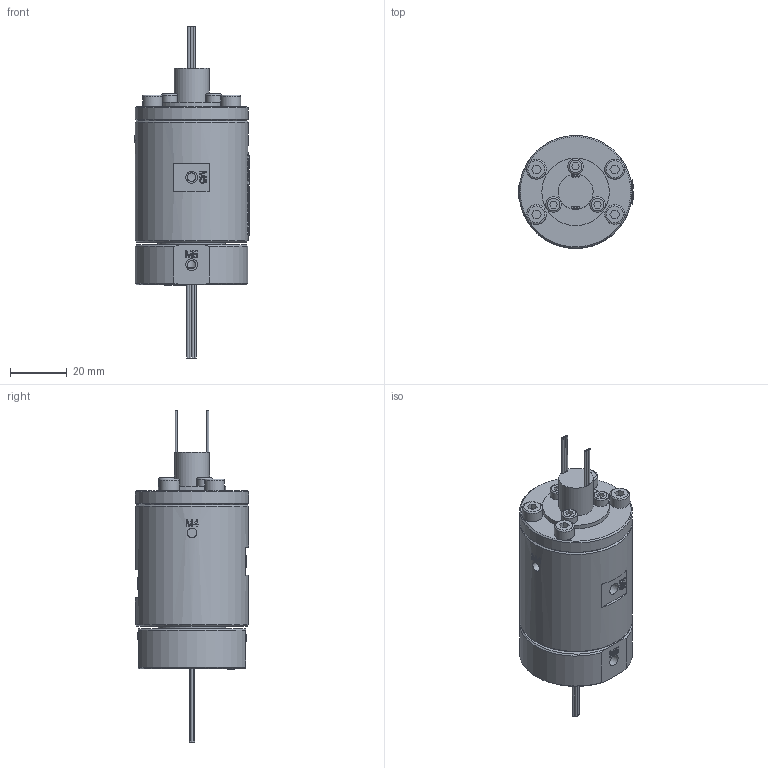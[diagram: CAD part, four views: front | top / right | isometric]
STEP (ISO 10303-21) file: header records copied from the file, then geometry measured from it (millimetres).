
FILE_DESCRIPTION(/* description */ (''),/* implementation_level */ '2;1');
FILE_NAME(/* name */ 'YQ02005-06M.stp',/* time_stamp */ '2025-09-01T09:46:11+08:00',/* author */ (''),/* organization */ (''),/* preprocessor_version */ 'ST-DEVELOPER v16.7',/* originating_system */ 'SIEMENS PLM Software NX 12.0',/* authorisation */ '');
FILE_SCHEMA (('AUTOMOTIVE_DESIGN { 1 0 10303 214 3 1 1 1 }'));
Products named in the file (1): Admi1DF097DFvvr6
Bounding box: 40.7 x 40 x 117.5 mm (x, y, z)
Volume: 79451.1 mm3; surface area: 16801.4 mm2
Topology: 1 solids, 12 shells, 1189 faces, 3179 edges, 2116 vertices
Faces by surface type: extrusion 524, plane 488, cylinder 93, bspline 45, cone 32, torus 7
Full cylindrical faces by diameter (mm): 0.8 x18, 2.5 x3, 3 x7, 3.4 x9, 4 x6, 4.1 x2, 4.2 x6, 4.5 x4, 5 x1, 5.5 x3, 6 x2, 7 x4, 12.4 x1, 23.9 x1, 24 x1, 32 x1, 40 x2
Entity records: 45365 total; most frequent: CARTESIAN_POINT 20343, ORIENTED_EDGE 6034, EDGE_CURVE 3017, DIRECTION 3015, B_SPLINE_CURVE_WITH_KNOTS 2639, VERTEX_POINT 2066, EDGE_LOOP 1429, ADVANCED_FACE 1189
